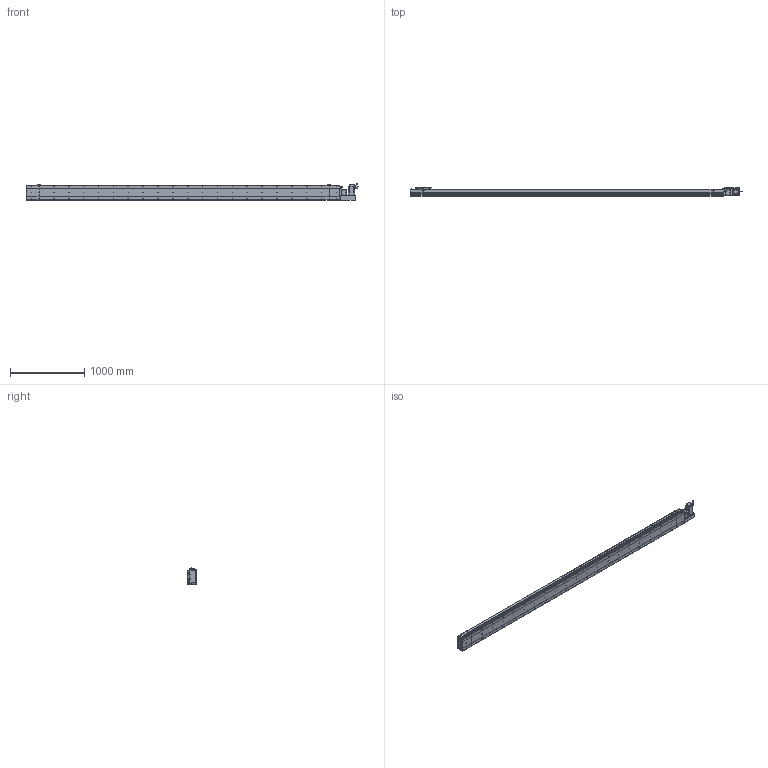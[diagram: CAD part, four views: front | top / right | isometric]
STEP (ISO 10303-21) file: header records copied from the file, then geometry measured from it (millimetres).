
FILE_DESCRIPTION (( 'STEP AP214' ), '1' );
FILE_NAME ('D20 CBH RH S3900.STEP', '2010-06-30T11:14:55', ( 'Conseil Régional Haute-Normandie' ), ( 'Conseil Régional Haute-Normandie' ), 'SwSTEP 2.0', 'SolidWorks 2010', '' );
FILE_SCHEMA (( 'AUTOMOTIVE_DESIGN' ));
Length unit declared in the file: millimetre
Products named in the file (31): Couvercle_Default; Plaque de Bout Tail D20_Default; Plaque De Serrage D20_Default; vis M5 L15_Default; codeur 90BLDC125-640; Conecteur2_Default; Conecteur_Default; ecrou_Default; vis M5 L30_Default; vis M5 L47_Default; Corp S3900_Default; Cache Support Moteur RH_Default; Couvercle S3900_Default; Tail D20+100_Default; Chariot D20_Default; Support Chariot D20_Default; Glissiere_Default; Corp D20 S3900_Default; Head D20 RH_Default; Corp Tail D20 RH_Default; Couvercle RH_Default; Plaque de Bout Head D20 RH_Default; Plaque De Serrage D20 RH_Default; Rondelle Cache D20 RH_Default; Support moteur RH_Default; avant 90BLDC125A-640; Moteur motionking 90BLDC125A-640; corps 90BLDC125A-640; D20 CBH RH S3900; Corp Tail D20+100_Default
Assembly tree (68 placements, depth 4):
  D20 CBH RH S3900
    Chariot D20_Default
      vis M5 L15_Default  x8
      Chariot D20_Default
      Glissiere_Default
      Support Chariot D20_Default
    Tail D20+100_Default
      vis M5 L15_Default  x6
      Plaque De Serrage D20_Default
      Corp Tail D20+100_Default
      Couvercle_Default
      Plaque de Bout Tail D20_Default
    Head D20 RH_Default
      vis M5 L30_Default  x4
      Rondelle Cache D20 RH_Default  x3
      vis M5 L15_Default  x14
      ecrou_Default  x4
      Support moteur RH_Default
      vis M5 L47_Default  x4
      Plaque de Bout Head D20 RH_Default
      Corp Tail D20 RH_Default
      Cache Support Moteur RH_Default
      Couvercle RH_Default
      Plaque De Serrage D20 RH_Default
      Moteur motionking 90BLDC125A-640
        avant 90BLDC125A-640
        Conecteur2_Default
        corps 90BLDC125A-640
        Conecteur_Default
        codeur 90BLDC125-640
    Corp D20 S3900_Default
      Corp S3900_Default
      Couvercle S3900_Default
Bounding box: 4465.45 x 119.5 x 229.7 mm (x, y, z)
Volume: 28927067.2 mm3; surface area: 5515765.3 mm2
Topology: 105 solids, 105 shells, 3910 faces, 9696 edges, 6298 vertices
Faces by surface type: plane 2161, bspline 806, cylinder 772, torus 95, cone 72, sphere 4
Entity records: 161990 total; most frequent: CARTESIAN_POINT 82736, ORIENTED_EDGE 15660, DIRECTION 12118, EDGE_CURVE 7830, VERTEX_POINT 5182, VECTOR 5014, LINE 5014, AXIS2_PLACEMENT_3D 3552
